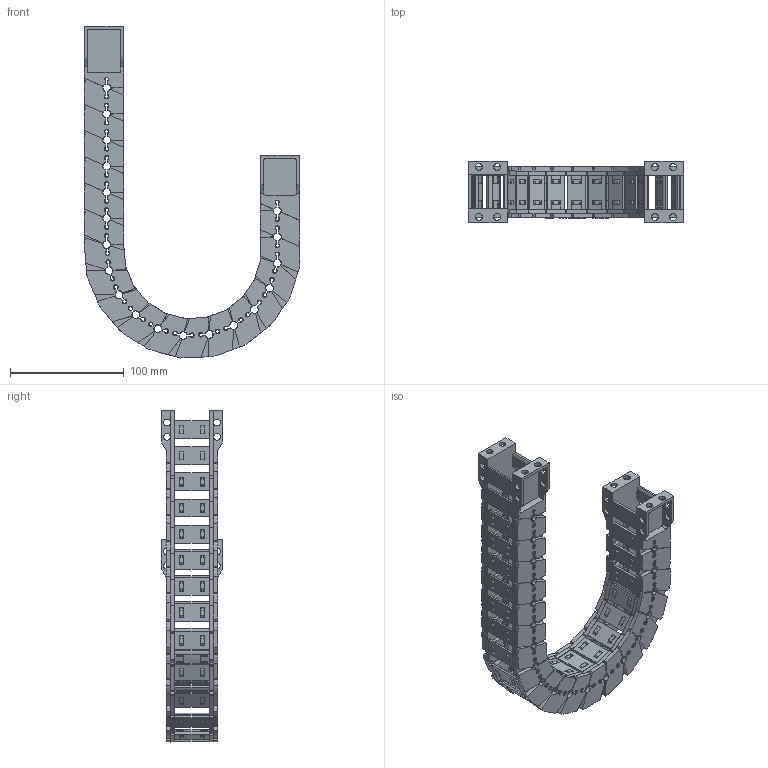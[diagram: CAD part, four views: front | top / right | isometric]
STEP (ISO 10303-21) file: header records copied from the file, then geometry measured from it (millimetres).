
FILE_DESCRIPTION(/* description */ (''),/* implementation_level */ '2;1');
FILE_NAME(/* name */ 'JY28-30-R75.stp',/* time_stamp */ '2026-06-03T13:41:36+08:00',/* author */ (''),/* organization */ (''),/* preprocessor_version */ 'ST-DEVELOPER v19.4',/* originating_system */ 'SIEMENS PLM Software NX2306.5001',/* authorisation */ '');
FILE_SCHEMA (('AP203_CONFIGURATION_CONTROLLED_3D_DESIGN_OF_MECHANICAL_PARTS_AND_ASSEMBLIES_MIM_LF { 1 0 10303 403 2 1 2}'));
Products named in the file (1): _model1_objects
Bounding box: 189.55 x 54 x 292.17 mm (x, y, z)
Volume: 276609.1 mm3; surface area: 204400.7 mm2
Topology: 74 solids, 74 shells, 6194 faces, 17618 edges, 11518 vertices
Faces by surface type: plane 4058, cone 1120, cylinder 978, bspline 36, torus 2
Full cylindrical faces by diameter (mm): 6 x24
Entity records: 209461 total; most frequent: CARTESIAN_POINT 46487, ORIENTED_EDGE 35144, DIRECTION 33002, EDGE_CURVE 17572, LINE 11632, VECTOR 11632, VERTEX_POINT 11496, AXIS2_PLACEMENT_3D 10685
